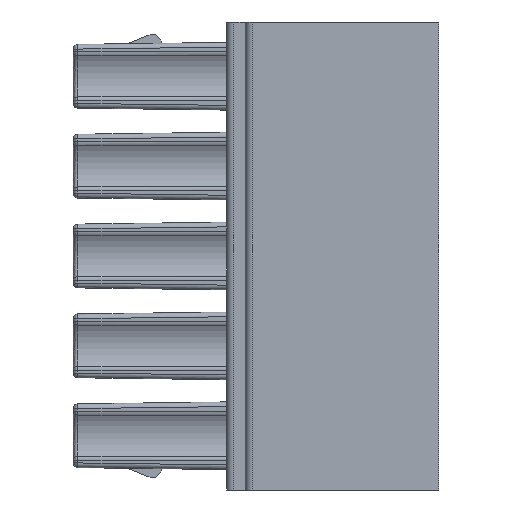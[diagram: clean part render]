
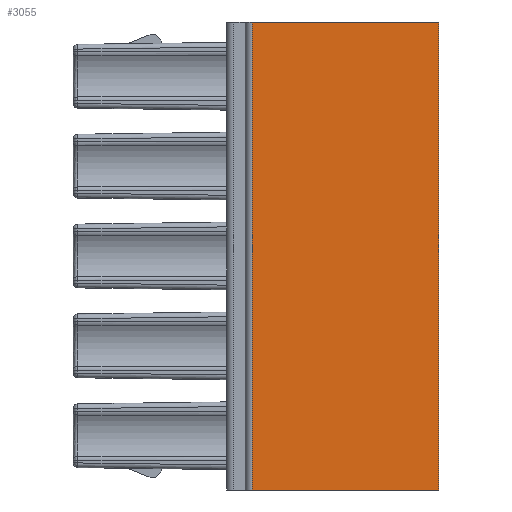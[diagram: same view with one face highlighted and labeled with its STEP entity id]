
A CAD part, left-side view. The second image highlights one B-rep face of the part: STEP entity #3055.
In plain terms, the highlighted planar face has unit normal (-1, 0, 0).
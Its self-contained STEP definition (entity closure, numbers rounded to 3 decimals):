
#203 = VERTEX_POINT ( 'NONE', #8117 ) ;
#391 = PLANE ( 'NONE',  #4013 ) ;
#504 = CARTESIAN_POINT ( 'NONE',  ( 0., 0., 9.92 ) ) ;
#1094 = EDGE_CURVE ( 'NONE', #7830, #8103, #9473, .T. ) ;
#1709 = DIRECTION ( 'NONE',  ( 0., 1., 0. ) ) ;
#2246 = VECTOR ( 'NONE', #6823, 1000. ) ;
#2387 = EDGE_LOOP ( 'NONE', ( #7678, #6152, #4101, #7889 ) ) ;
#2732 = CARTESIAN_POINT ( 'NONE',  ( 0., 0., 9.92 ) ) ;
#3013 = DIRECTION ( 'NONE',  ( 0., 0., 1. ) ) ;
#3055 = ADVANCED_FACE ( 'NONE', ( #7223 ), #391, .T. ) ;
#3870 = DIRECTION ( 'NONE',  ( 0., 1., 0. ) ) ;
#4013 = AXIS2_PLACEMENT_3D ( 'NONE', #504, #4654, #3013 ) ;
#4040 = VECTOR ( 'NONE', #1709, 1000. ) ;
#4101 = ORIENTED_EDGE ( 'NONE', *, *, #1094, .T. ) ;
#4144 = CARTESIAN_POINT ( 'NONE',  ( 0., 0., -9.92 ) ) ;
#4654 = DIRECTION ( 'NONE',  ( -1., 0., 0. ) ) ;
#5054 = VECTOR ( 'NONE', #5220, 1000. ) ;
#5220 = DIRECTION ( 'NONE',  ( 0., 0., 1. ) ) ;
#6152 = ORIENTED_EDGE ( 'NONE', *, *, #6794, .F. ) ;
#6257 = EDGE_CURVE ( 'NONE', #8103, #6666, #11079, .T. ) ;
#6604 = LINE ( 'NONE', #10204, #2246 ) ;
#6666 = VERTEX_POINT ( 'NONE', #8854 ) ;
#6794 = EDGE_CURVE ( 'NONE', #7830, #203, #8970, .T. ) ;
#6823 = DIRECTION ( 'NONE',  ( 0., 0., -1. ) ) ;
#6855 = EDGE_CURVE ( 'NONE', #6666, #203, #6604, .T. ) ;
#7223 = FACE_OUTER_BOUND ( 'NONE', #2387, .T. ) ;
#7383 = CARTESIAN_POINT ( 'NONE',  ( 0., 0., 9.92 ) ) ;
#7678 = ORIENTED_EDGE ( 'NONE', *, *, #6855, .T. ) ;
#7830 = VERTEX_POINT ( 'NONE', #4144 ) ;
#7889 = ORIENTED_EDGE ( 'NONE', *, *, #6257, .T. ) ;
#8103 = VERTEX_POINT ( 'NONE', #7383 ) ;
#8117 = CARTESIAN_POINT ( 'NONE',  ( 0., 7.9, -9.92 ) ) ;
#8132 = CARTESIAN_POINT ( 'NONE',  ( 0., 0., -9.92 ) ) ;
#8552 = CARTESIAN_POINT ( 'NONE',  ( 0., 0., 9.92 ) ) ;
#8854 = CARTESIAN_POINT ( 'NONE',  ( 0., 7.9, 9.92 ) ) ;
#8970 = LINE ( 'NONE', #8132, #10148 ) ;
#9473 = LINE ( 'NONE', #2732, #5054 ) ;
#10148 = VECTOR ( 'NONE', #3870, 1000. ) ;
#10204 = CARTESIAN_POINT ( 'NONE',  ( 0., 7.9, 9.92 ) ) ;
#11079 = LINE ( 'NONE', #8552, #4040 ) ;
